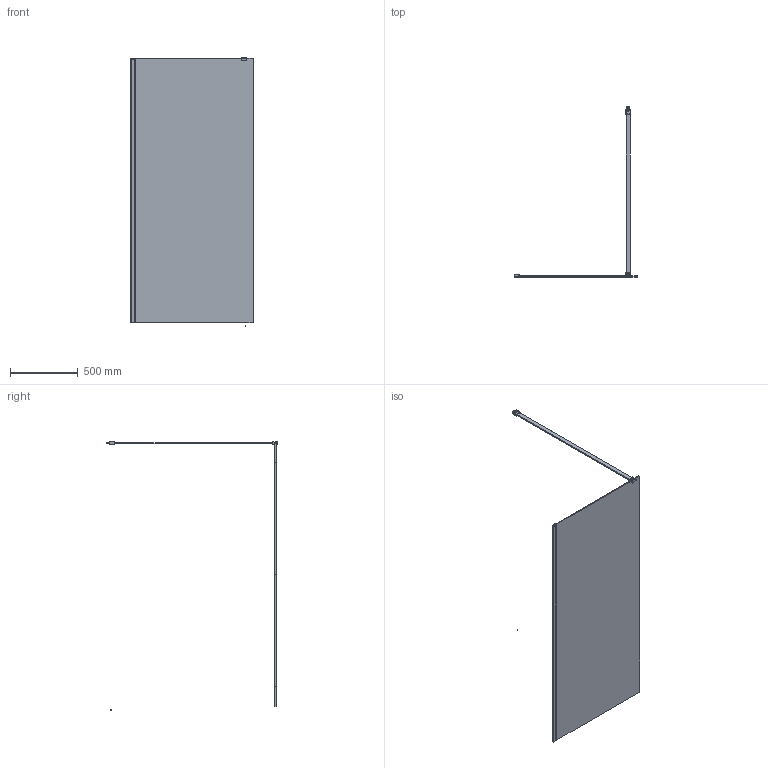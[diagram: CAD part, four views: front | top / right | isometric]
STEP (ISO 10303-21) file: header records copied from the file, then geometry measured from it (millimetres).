
FILE_DESCRIPTION((''),'2;1');
FILE_NAME('0-703510-1_ASM','2022-05-25T20:09:56',('M'),(''),'CREO PARAMETRIC BY PTC INC, 2017110','CREO PARAMETRIC BY PTC INC, 2017110','');
FILE_SCHEMA(('CONFIG_CONTROL_DESIGN'));
Length unit declared in the file: millimetre
Products named in the file (14): 00; 004; 0044; 20001; 0045; CTZG_ST4X30; M6-8; M4-5; 0046; 0-703510-1_ASM
Assembly tree (21 placements, depth 2):
  0-703510-1_ASM
    00
    00
    004
    00
    00
    0044
    20001
    0045
    CTZG_ST4X30  x2
    M6-8  x2
    M4-5  x7
    0046
    00
Bounding box: 900 x 1262.72 x 1979.7 mm (x, y, z)
Volume: 15039779.4 mm3; surface area: 3773367.4 mm2
Topology: 21 solids, 21 shells, 618 faces, 1620 edges, 1060 vertices
Faces by surface type: cylinder 299, plane 183, bspline 120, cone 12, torus 4
Entity records: 22344 total; most frequent: CARTESIAN_POINT 15068, ORIENTED_EDGE 1562, DIRECTION 1259, EDGE_CURVE 781, VERTEX_POINT 513, AXIS2_PLACEMENT_3D 430, VECTOR 399, LINE 399
